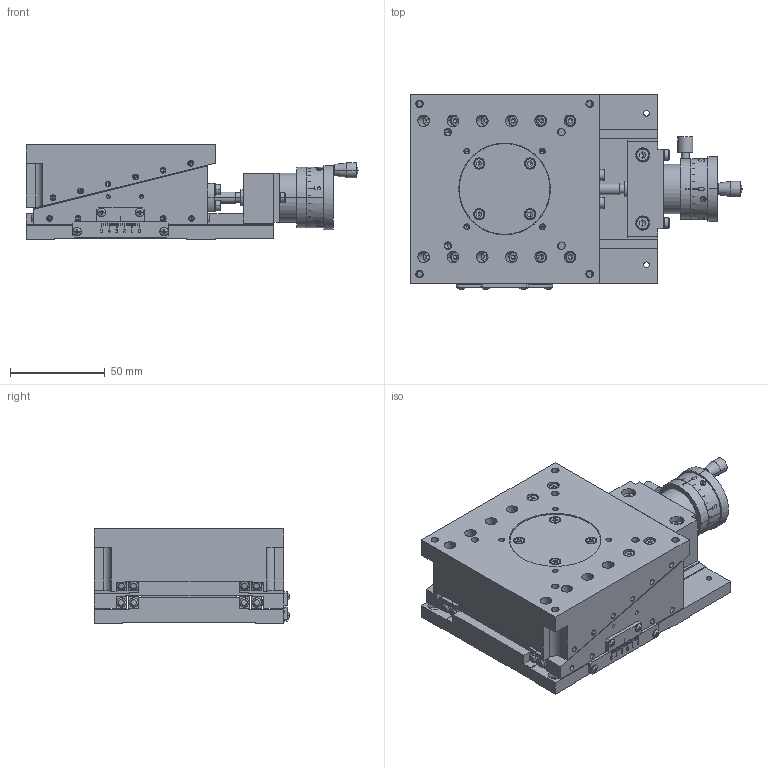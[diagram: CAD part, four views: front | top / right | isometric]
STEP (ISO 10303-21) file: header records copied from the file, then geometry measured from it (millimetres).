
FILE_DESCRIPTION (( 'STEP AP203' ), '1' );
FILE_NAME ('ZM10A-C6C.STEP', '2015-05-21T09:24:14', ( '' ), ( '' ), 'SwSTEP 2.0', 'SolidWorks 2011', '' );
FILE_SCHEMA (( 'CONFIG_CONTROL_DESIGN' ));
Products named in the file (5): ZM10A-C6C; base-39; table-30; wedge-5; handle-2
Assembly tree (4 placements, depth 2):
  ZM10A-C6C
    handle-2
    base-39
    wedge-5
    table-30
Bounding box: 175.47 x 103.18 x 50 mm (x, y, z)
Volume: 484311.7 mm3; surface area: 131181.1 mm2
Topology: 4 solids, 89 shells, 3036 faces, 6838 edges, 4023 vertices
Faces by surface type: plane 1525, cylinder 891, cone 607, sphere 13
Entity records: 83469 total; most frequent: DIRECTION 15152, CARTESIAN_POINT 14804, ORIENTED_EDGE 13238, EDGE_CURVE 6619, AXIS2_PLACEMENT_3D 5679, VERTEX_POINT 4021, LINE 3794, VECTOR 3794
